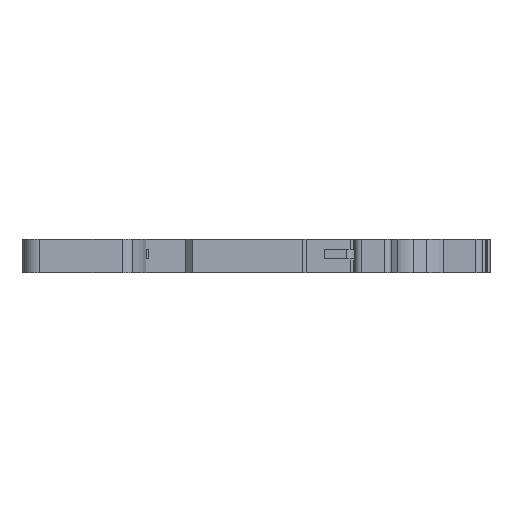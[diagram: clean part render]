
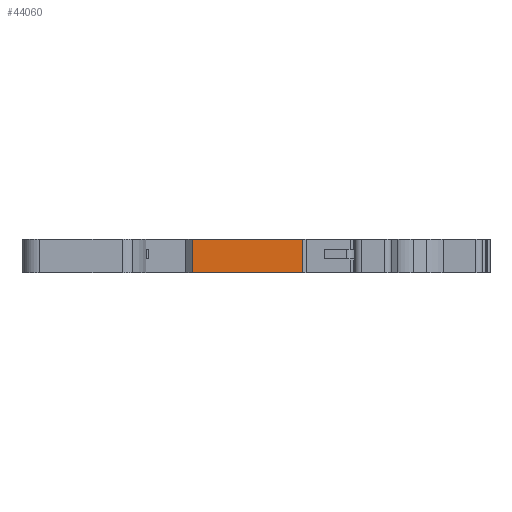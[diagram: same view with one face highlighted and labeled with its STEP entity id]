
A CAD part, front view. The second image highlights one B-rep face of the part: STEP entity #44060.
In plain terms, the highlighted planar face has unit normal (0, -1, 0).
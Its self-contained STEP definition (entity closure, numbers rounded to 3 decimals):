
#3940=CARTESIAN_POINT('',(-9.,-0.5,-5.2));
#3950=VERTEX_POINT('',#3940);
#3980=CARTESIAN_POINT('',(8.,-0.5,-5.2));
#3990=DIRECTION('',(-1.,0.,0.));
#4000=VECTOR('',#3990,1.);
#4010=LINE('',#3980,#4000);
#4020=CARTESIAN_POINT('',(8.,-0.5,-5.2));
#4030=VERTEX_POINT('',#4020);
#4040=EDGE_CURVE('',#4030,#3950,#4010,.T.);
#28770=CARTESIAN_POINT('',(8.,-0.5,0.));
#28780=VERTEX_POINT('',#28770);
#28810=CARTESIAN_POINT('',(-9.,-0.5,0.));
#28820=DIRECTION('',(1.,0.,0.));
#28830=VECTOR('',#28820,1.);
#28840=LINE('',#28810,#28830);
#28850=CARTESIAN_POINT('',(-9.,-0.5,0.));
#28860=VERTEX_POINT('',#28850);
#28870=EDGE_CURVE('',#28860,#28780,#28840,.T.);
#43810=CARTESIAN_POINT('',(8.,-0.5,-5.2));
#43820=DIRECTION('',(0.,0.,1.));
#43830=VECTOR('',#43820,1.);
#43840=LINE('',#43810,#43830);
#43850=EDGE_CURVE('',#4030,#28780,#43840,.T.);
#43900=CARTESIAN_POINT('',(8.,-0.5,0.));
#43910=DIRECTION('',(0.,1.,0.));
#43920=DIRECTION('',(1.,0.,0.));
#43930=AXIS2_PLACEMENT_3D('',#43900,#43910,#43920);
#43940=PLANE('',#43930);
#43950=ORIENTED_EDGE('',*,*,#28870,.F.);
#43960=ORIENTED_EDGE('',*,*,#43850,.T.);
#43970=ORIENTED_EDGE('',*,*,#4040,.F.);
#43980=CARTESIAN_POINT('',(-9.,-0.5,-5.2));
#43990=DIRECTION('',(0.,0.,1.));
#44000=VECTOR('',#43990,1.);
#44010=LINE('',#43980,#44000);
#44020=EDGE_CURVE('',#3950,#28860,#44010,.T.);
#44030=ORIENTED_EDGE('',*,*,#44020,.F.);
#44040=EDGE_LOOP('',(#44030,#43970,#43960,#43950));
#44050=FACE_OUTER_BOUND('',#44040,.T.);
#44060=ADVANCED_FACE('',(#44050),#43940,.F.);
